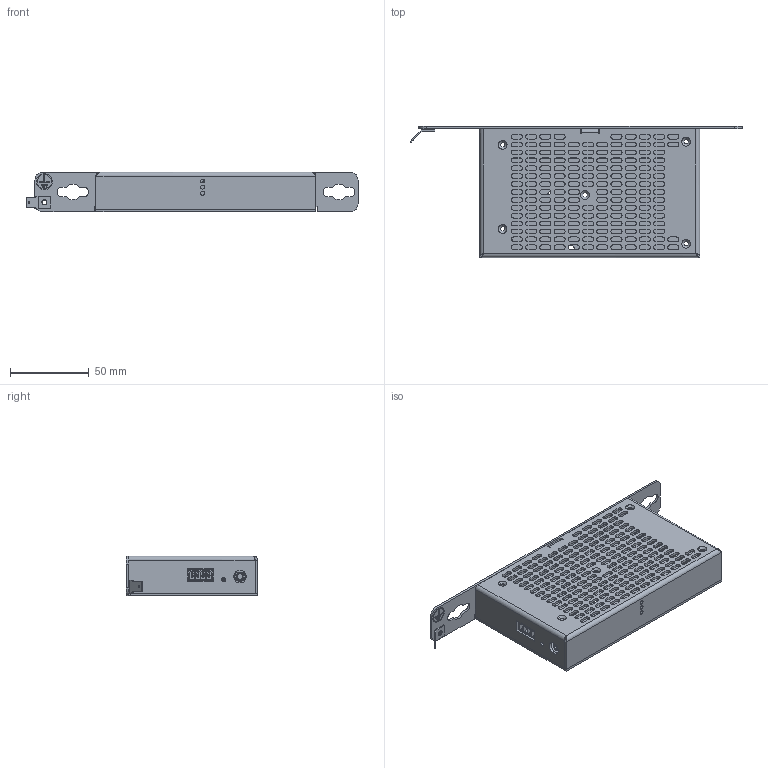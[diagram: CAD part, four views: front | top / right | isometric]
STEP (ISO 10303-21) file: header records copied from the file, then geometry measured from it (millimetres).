
FILE_DESCRIPTION (( 'STEP AP214' ), '1' );
FILE_NAME ('PC 301-E12 (01-310-301-E12).STEP', '2020-09-07T15:13:17', ( 'Windows-Benutzer' ), ( '' ), 'SwSTEP 2.0', 'SolidWorks 2018', '' );
FILE_SCHEMA (( 'AUTOMOTIVE_DESIGN' ));
Length unit declared in the file: millimetre
Products named in the file (13): 4080225387 c-1981080-1-g-3d; PC 301-E12 (01-310-301-E12); ZM2021-5070-10 Geh舫se_f〉 homepage; Zahnscheibe DIN6797 - A 3,2 - FSt-verzinkt; 4080225531 3,5mm Klinkenbuchse 90Grad SJ-43516-SMT; ZM1721-4222-10 Grundplatte Extender-Box Valens; ZM1721-4222-10 Grundplatte Extender Box Valens_f〉 homepage; Molex 105019-0001; 3030261492 Steckzunge 6,3 m.B. M3 DIN46244 St-verzinnt; 134402_v10_doichr_f〉 homepage; 4080225165 USB-Buchse Typ B 90°, FCI 61729-1011 RLF; 4110251205 4pol.Minicombicon-Grundgehäuse RM3,5 1937512
Assembly tree (12 placements, depth 3):
  PC 301-E12 (01-310-301-E12)
    ZM1721-4222-10 Grundplatte Extender Box Valens_f〉 homepage
      ZM1721-4222-10 Grundplatte Extender-Box Valens
    ZM2021-5070-10 Geh舫se_f〉 homepage
      ZM2021-5070-10 Geh舫se_f〉 homepage
    3030261492 Steckzunge 6,3 m.B. M3 DIN46244 St-verzinnt
    Zahnscheibe DIN6797 - A 3,2 - FSt-verzinkt
    134402_v10_doichr_f〉 homepage
      Molex 105019-0001
      4080225531 3,5mm Klinkenbuchse 90Grad SJ-43516-SMT
      4110251205 4pol.Minicombicon-Grundgehäuse RM3,5 1937512
      4080225165 USB-Buchse Typ B 90°, FCI 61729-1011 RLF
      4080225387 c-1981080-1-g-3d
Bounding box: 210.14 x 83 x 25.1 mm (x, y, z)
Volume: 47088.5 mm3; surface area: 75490.3 mm2
Topology: 18 solids, 20 shells, 3965 faces, 11349 edges, 7377 vertices
Faces by surface type: plane 2759, cylinder 1107, bspline 68, cone 31
Full cylindrical faces by diameter (mm): 0.2 x1
Entity records: 136240 total; most frequent: CARTESIAN_POINT 26257, ORIENTED_EDGE 22652, DIRECTION 20859, EDGE_CURVE 11339, VECTOR 8689, LINE 8689, VERTEX_POINT 7375, AXIS2_PLACEMENT_3D 6085
